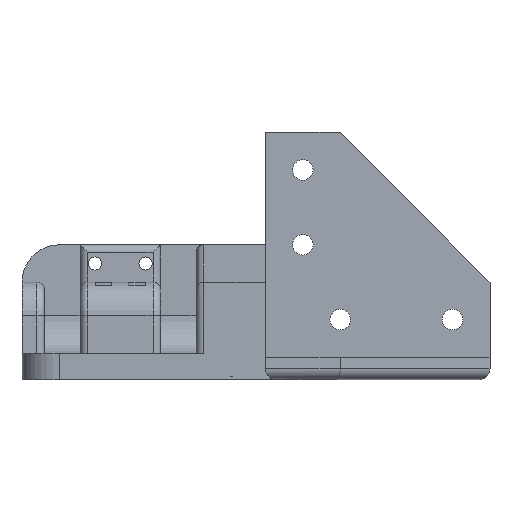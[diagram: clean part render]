
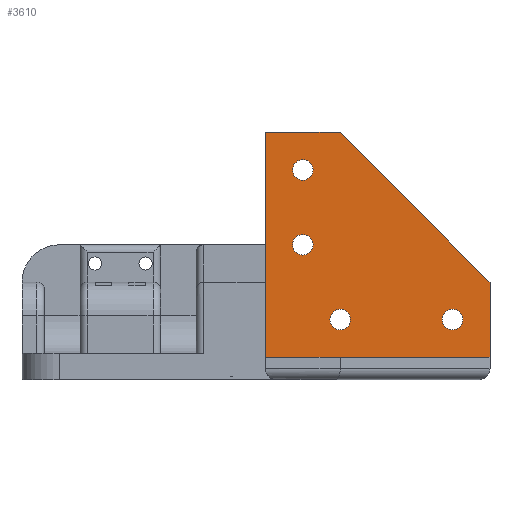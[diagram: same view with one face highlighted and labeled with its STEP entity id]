
A CAD part, left-side view. The second image highlights one B-rep face of the part: STEP entity #3610.
In plain terms, the highlighted planar face has unit normal (-1, 0, 0) as drawn and (1, 0, 0) by its records, which use the part's own axes.
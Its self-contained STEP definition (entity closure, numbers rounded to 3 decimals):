
#109=FACE_BOUND('',#800,.T.);
#110=FACE_BOUND('',#801,.T.);
#111=FACE_BOUND('',#802,.T.);
#112=FACE_BOUND('',#803,.T.);
#137=CIRCLE('',#3711,2.75);
#139=CIRCLE('',#3714,2.75);
#141=CIRCLE('',#3717,2.75);
#143=CIRCLE('',#3720,2.75);
#556=FACE_OUTER_BOUND('',#799,.T.);
#799=EDGE_LOOP('',(#3287,#3288,#3289,#3290,#3291,#3292));
#800=EDGE_LOOP('',(#3293));
#801=EDGE_LOOP('',(#3294));
#802=EDGE_LOOP('',(#3295));
#803=EDGE_LOOP('',(#3296));
#1086=LINE('',#8044,#1407);
#1089=LINE('',#8049,#1410);
#1091=LINE('',#8053,#1412);
#1092=LINE('',#8055,#1413);
#1114=LINE('',#8119,#1435);
#1128=LINE('',#8149,#1449);
#1407=VECTOR('',#4586,10.);
#1410=VECTOR('',#4591,10.);
#1412=VECTOR('',#4595,10.);
#1413=VECTOR('',#4598,10.);
#1435=VECTOR('',#4670,10.);
#1449=VECTOR('',#4710,10.);
#1636=VERTEX_POINT('',#7674);
#1638=VERTEX_POINT('',#7680);
#1640=VERTEX_POINT('',#7686);
#1642=VERTEX_POINT('',#7692);
#1708=VERTEX_POINT('',#7880);
#1758=VERTEX_POINT('',#8041);
#1759=VERTEX_POINT('',#8043);
#1760=VERTEX_POINT('',#8047);
#1761=VERTEX_POINT('',#8051);
#1778=VERTEX_POINT('',#8118);
#2055=EDGE_CURVE('',#1636,#1636,#137,.T.);
#2058=EDGE_CURVE('',#1638,#1638,#139,.T.);
#2061=EDGE_CURVE('',#1640,#1640,#141,.T.);
#2064=EDGE_CURVE('',#1642,#1642,#143,.T.);
#2238=EDGE_CURVE('',#1758,#1759,#1086,.T.);
#2241=EDGE_CURVE('',#1760,#1758,#1089,.T.);
#2243=EDGE_CURVE('',#1760,#1761,#1091,.T.);
#2244=EDGE_CURVE('',#1761,#1708,#1092,.T.);
#2275=EDGE_CURVE('',#1778,#1759,#1114,.T.);
#2291=EDGE_CURVE('',#1708,#1778,#1128,.T.);
#3287=ORIENTED_EDGE('',*,*,#2244,.T.);
#3288=ORIENTED_EDGE('',*,*,#2291,.T.);
#3289=ORIENTED_EDGE('',*,*,#2275,.T.);
#3290=ORIENTED_EDGE('',*,*,#2238,.F.);
#3291=ORIENTED_EDGE('',*,*,#2241,.F.);
#3292=ORIENTED_EDGE('',*,*,#2243,.T.);
#3293=ORIENTED_EDGE('',*,*,#2055,.T.);
#3294=ORIENTED_EDGE('',*,*,#2058,.T.);
#3295=ORIENTED_EDGE('',*,*,#2061,.T.);
#3296=ORIENTED_EDGE('',*,*,#2064,.T.);
#3411=PLANE('',#3879);
#3610=ADVANCED_FACE('',(#556,#109,#110,#111,#112),#3411,.T.);
#3711=AXIS2_PLACEMENT_3D('',#7676,#4213,#4214);
#3714=AXIS2_PLACEMENT_3D('',#7682,#4220,#4221);
#3717=AXIS2_PLACEMENT_3D('',#7688,#4227,#4228);
#3720=AXIS2_PLACEMENT_3D('',#7694,#4234,#4235);
#3879=AXIS2_PLACEMENT_3D('',#8148,#4708,#4709);
#4213=DIRECTION('center_axis',(-1.,0.,0.));
#4214=DIRECTION('ref_axis',(0.,0.,1.));
#4220=DIRECTION('center_axis',(-1.,0.,0.));
#4221=DIRECTION('ref_axis',(0.,0.,1.));
#4227=DIRECTION('center_axis',(-1.,0.,0.));
#4228=DIRECTION('ref_axis',(0.,0.,1.));
#4234=DIRECTION('center_axis',(-1.,0.,0.));
#4235=DIRECTION('ref_axis',(0.,0.,1.));
#4586=DIRECTION('',(0.,0.,1.));
#4591=DIRECTION('',(0.,-0.707,0.707));
#4595=DIRECTION('',(0.,1.,0.));
#4598=DIRECTION('',(0.,0.,1.));
#4670=DIRECTION('',(0.,-1.,0.));
#4708=DIRECTION('center_axis',(1.,0.,0.));
#4709=DIRECTION('ref_axis',(0.,0.,-1.));
#4710=DIRECTION('',(0.,0.,1.));
#7674=CARTESIAN_POINT('',(-330.,290.,-22.75));
#7676=CARTESIAN_POINT('Origin',(-330.,290.,-20.));
#7680=CARTESIAN_POINT('',(-330.,280.,-2.75));
#7682=CARTESIAN_POINT('Origin',(-330.,280.,0.));
#7686=CARTESIAN_POINT('',(-330.,290.,-42.75));
#7688=CARTESIAN_POINT('Origin',(-330.,290.,-40.));
#7692=CARTESIAN_POINT('',(-330.,250.,-2.75));
#7694=CARTESIAN_POINT('Origin',(-330.,250.,0.));
#7880=CARTESIAN_POINT('',(-330.,300.,-20.));
#8041=CARTESIAN_POINT('',(-330.,240.,-10.));
#8043=CARTESIAN_POINT('',(-330.,240.,10.));
#8044=CARTESIAN_POINT('',(-330.,240.,-50.));
#8047=CARTESIAN_POINT('',(-330.,280.,-50.));
#8049=CARTESIAN_POINT('',(-330.,275.,-45.));
#8051=CARTESIAN_POINT('',(-330.,300.,-50.));
#8053=CARTESIAN_POINT('',(-330.,300.,-50.));
#8055=CARTESIAN_POINT('',(-330.,300.,-18.5));
#8118=CARTESIAN_POINT('',(-330.,300.,10.));
#8119=CARTESIAN_POINT('',(-330.,300.,10.));
#8148=CARTESIAN_POINT('Origin',(-330.,300.,-20.));
#8149=CARTESIAN_POINT('',(-330.,300.,-50.));
